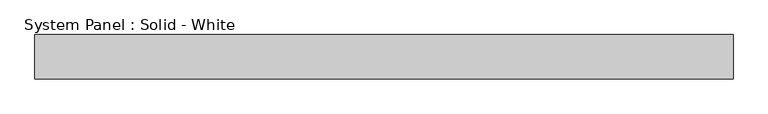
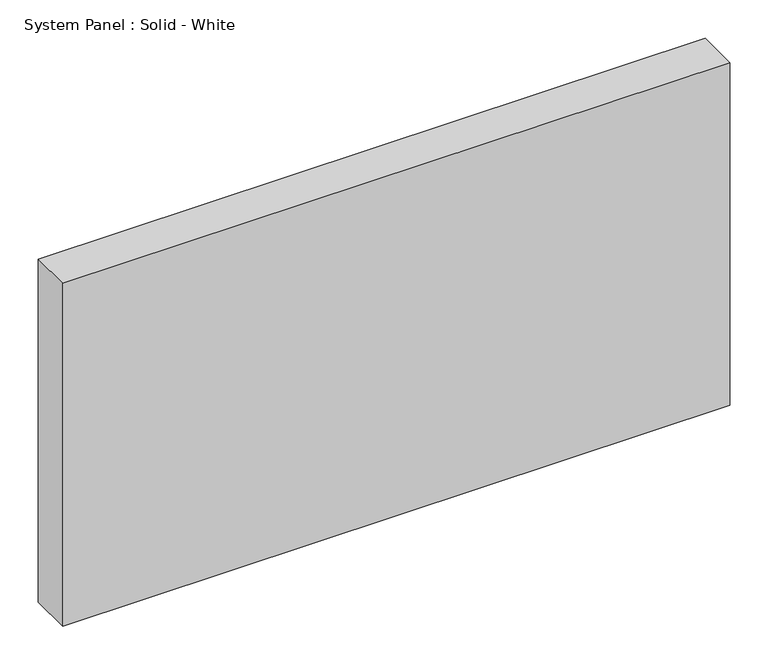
"""IFC4 building model written with IfcOpenShell, lengths in millimetres: plate geometry, System Panel : Solid - White."""

from ifc_helpers import new_model, si_unit, origin, origin_with_axes, place, context, project, spatial, polyline, outline, extrude, source, transform, mapped, element, save


def system_panel_solid_white_6c12217a(model_context):
    return source(origin(), model_context, "Body", "SweptSolid", [
        extrude(outline(polyline([(502.2628531, -19.05), (-502.2628531, -19.05), (-502.2628531, 44.45), (502.2628531, 44.45), (502.2628531, -19.05)])), origin_with_axes(), (0.0, 0.0, 1.0), 546.1),
    ])


if __name__ == "__main__":
    model = new_model("IFC4")
    model_context = context("Model", 3, world=origin())
    ifc_project = project(units=[si_unit("LENGTHUNIT", "METRE", prefix="MILLI")], contexts=[model_context])
    site = spatial("IfcSite", under=ifc_project)
    building = spatial("IfcBuilding", under=site)
    placement = place(None, origin())
    system_panel_solid_white_shape = system_panel_solid_white_6c12217a(model_context)
    element("IfcPlate", 1, ObjectType="System Panel : Solid - White", at=placement, inside=building, context=model_context, shape_type="MappedRepresentation", body=[
        mapped(system_panel_solid_white_shape, transform((0.0, 0.0, 0.0), x_axis=(1.0, 0.0, 0.0), y_axis=(0.0, 1.0, 0.0), z_axis=(0.0, 0.0, 1.0))),
    ])
    save(model, "model.ifc")
